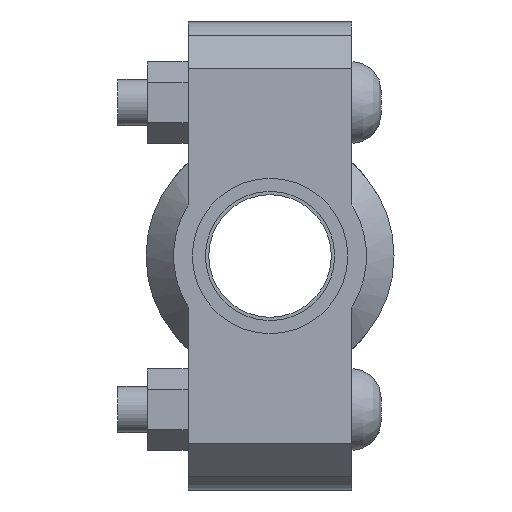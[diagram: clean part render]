
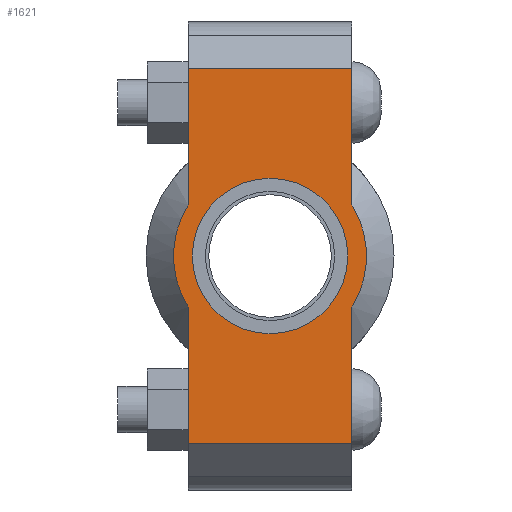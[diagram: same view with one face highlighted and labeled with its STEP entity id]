
A CAD part, left-side view. The second image highlights one B-rep face of the part: STEP entity #1621.
In plain terms, the highlighted planar face has unit normal (-1, 0, 0) as drawn and (0, 0, 1) by its records, which use the part's own axes.
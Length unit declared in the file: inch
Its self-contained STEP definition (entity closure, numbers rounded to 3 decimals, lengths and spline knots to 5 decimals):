
#176=LINE('',#2803,#273);
#191=LINE('',#2862,#288);
#199=LINE('',#2892,#296);
#201=LINE('',#2895,#298);
#202=LINE('',#2900,#299);
#203=LINE('',#2901,#300);
#273=VECTOR('',#2279,0.3937);
#288=VECTOR('',#2314,0.3937);
#296=VECTOR('',#2334,0.3937);
#298=VECTOR('',#2338,0.3937);
#299=VECTOR('',#2343,0.3937);
#300=VECTOR('',#2344,0.3937);
#364=FACE_BOUND('',#541,.T.);
#432=FACE_OUTER_BOUND('',#540,.T.);
#540=EDGE_LOOP('',(#1322,#1323,#1324,#1325,#1326,#1327,#1328,#1329));
#541=EDGE_LOOP('',(#1330));
#623=CIRCLE('',#1849,0.83);
#647=CIRCLE('',#1901,1.031);
#648=CIRCLE('',#1902,1.031);
#719=VERTEX_POINT('',#2629);
#760=VERTEX_POINT('',#2800);
#761=VERTEX_POINT('',#2802);
#782=VERTEX_POINT('',#2857);
#783=VERTEX_POINT('',#2861);
#792=VERTEX_POINT('',#2887);
#793=VERTEX_POINT('',#2891);
#794=VERTEX_POINT('',#2897);
#795=VERTEX_POINT('',#2899);
#883=EDGE_CURVE('',#719,#719,#623,.T.);
#940=EDGE_CURVE('',#761,#760,#176,.T.);
#965=EDGE_CURVE('',#783,#782,#191,.T.);
#978=EDGE_CURVE('',#793,#792,#199,.T.);
#980=EDGE_CURVE('',#793,#760,#201,.T.);
#981=EDGE_CURVE('',#792,#794,#647,.T.);
#982=EDGE_CURVE('',#794,#795,#202,.T.);
#983=EDGE_CURVE('',#783,#795,#203,.T.);
#984=EDGE_CURVE('',#782,#761,#648,.T.);
#1322=ORIENTED_EDGE('',*,*,#980,.F.);
#1323=ORIENTED_EDGE('',*,*,#978,.T.);
#1324=ORIENTED_EDGE('',*,*,#981,.T.);
#1325=ORIENTED_EDGE('',*,*,#982,.T.);
#1326=ORIENTED_EDGE('',*,*,#983,.F.);
#1327=ORIENTED_EDGE('',*,*,#965,.T.);
#1328=ORIENTED_EDGE('',*,*,#984,.T.);
#1329=ORIENTED_EDGE('',*,*,#940,.T.);
#1330=ORIENTED_EDGE('',*,*,#883,.T.);
#1461=PLANE('',#1900);
#1621=ADVANCED_FACE('',(#432,#364),#1461,.T.);
#1849=AXIS2_PLACEMENT_3D('',#2631,#2169,#2170);
#1900=AXIS2_PLACEMENT_3D('',#2896,#2339,#2340);
#1901=AXIS2_PLACEMENT_3D('',#2898,#2341,#2342);
#1902=AXIS2_PLACEMENT_3D('',#2902,#2345,#2346);
#2169=DIRECTION('center_axis',(0.,0.,-1.));
#2170=DIRECTION('ref_axis',(-1.,0.,0.));
#2279=DIRECTION('',(-1.,0.,0.));
#2314=DIRECTION('',(-1.,0.,0.));
#2334=DIRECTION('',(1.,0.,0.));
#2338=DIRECTION('',(0.,1.,0.));
#2339=DIRECTION('center_axis',(0.,0.,1.));
#2340=DIRECTION('ref_axis',(1.,0.,0.));
#2341=DIRECTION('center_axis',(0.,0.,1.));
#2342=DIRECTION('ref_axis',(-1.,0.,0.));
#2343=DIRECTION('',(1.,0.,0.));
#2344=DIRECTION('',(0.,-1.,0.));
#2345=DIRECTION('center_axis',(0.,0.,1.));
#2346=DIRECTION('ref_axis',(-1.,0.,0.));
#2629=CARTESIAN_POINT('',(0.83,0.,0.94));
#2631=CARTESIAN_POINT('Origin',(0.,0.,0.94));
#2800=CARTESIAN_POINT('',(-2.,0.875,0.94));
#2802=CARTESIAN_POINT('',(-0.54529,0.875,0.94));
#2803=CARTESIAN_POINT('',(2.5,0.875,0.94));
#2857=CARTESIAN_POINT('',(0.54529,0.875,0.94));
#2861=CARTESIAN_POINT('',(2.,0.875,0.94));
#2862=CARTESIAN_POINT('',(2.5,0.875,0.94));
#2887=CARTESIAN_POINT('',(-0.54529,-0.875,0.94));
#2891=CARTESIAN_POINT('',(-2.,-0.875,0.94));
#2892=CARTESIAN_POINT('',(-2.5,-0.875,0.94));
#2895=CARTESIAN_POINT('',(-2.,0.4375,0.94));
#2896=CARTESIAN_POINT('Origin',(0.,0.,
0.94));
#2897=CARTESIAN_POINT('',(0.54529,-0.875,0.94));
#2898=CARTESIAN_POINT('Origin',(0.,0.,0.94));
#2899=CARTESIAN_POINT('',(2.,-0.875,0.94));
#2900=CARTESIAN_POINT('',(-2.5,-0.875,0.94));
#2901=CARTESIAN_POINT('',(2.,-0.4375,0.94));
#2902=CARTESIAN_POINT('Origin',(0.,0.,0.94));
